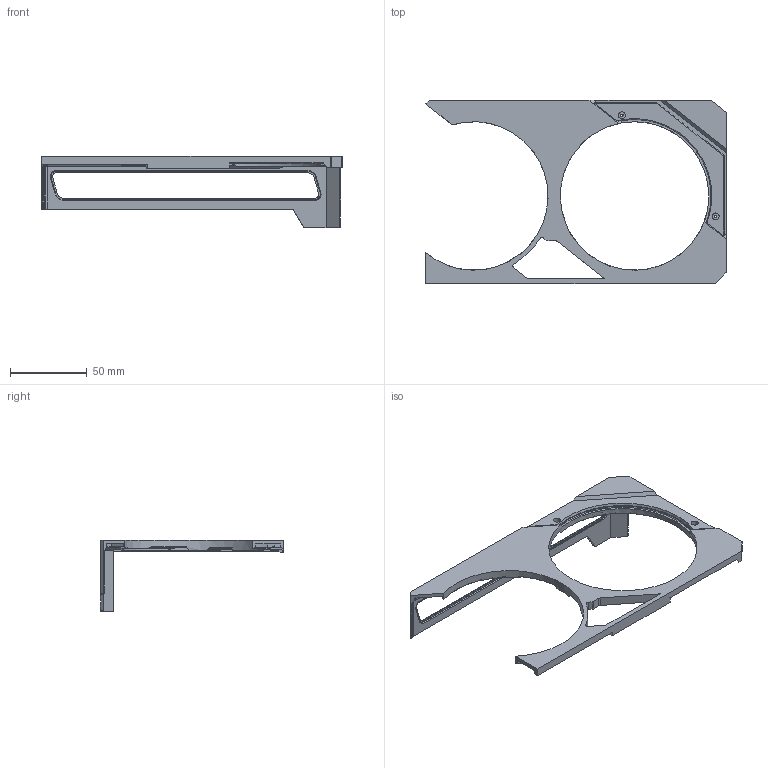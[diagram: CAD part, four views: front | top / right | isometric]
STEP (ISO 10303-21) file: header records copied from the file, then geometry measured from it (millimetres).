
FILE_DESCRIPTION((''),'2;1');
FILE_NAME('C02','2022-10-27T16:08:15',('Kate'),(''),'CREO PARAMETRIC BY PTC INC, 2020281','CREO PARAMETRIC BY PTC INC, 2020281','');
FILE_SCHEMA(('AUTOMOTIVE_DESIGN { 1 0 10303 214 1 1 1 1 }'));
Length unit declared in the file: millimetre
Products named in the file (1): C02
Bounding box: 196.5 x 120 x 46.83 mm (x, y, z)
Volume: 45566.2 mm3; surface area: 32495.2 mm2
Topology: 1 solids, 1 shells, 228 faces, 649 edges, 423 vertices
Faces by surface type: plane 135, cylinder 50, cone 21, torus 18, extrusion 3, revolution 1
Entity records: 9806 total; most frequent: CARTESIAN_POINT 1822, ORIENTED_EDGE 1298, DIRECTION 1166, PRESENTATION_STYLE_ASSIGNMENT 650, STYLED_ITEM 650, CURVE_STYLE 649, EDGE_CURVE 649, VERTEX_POINT 423
